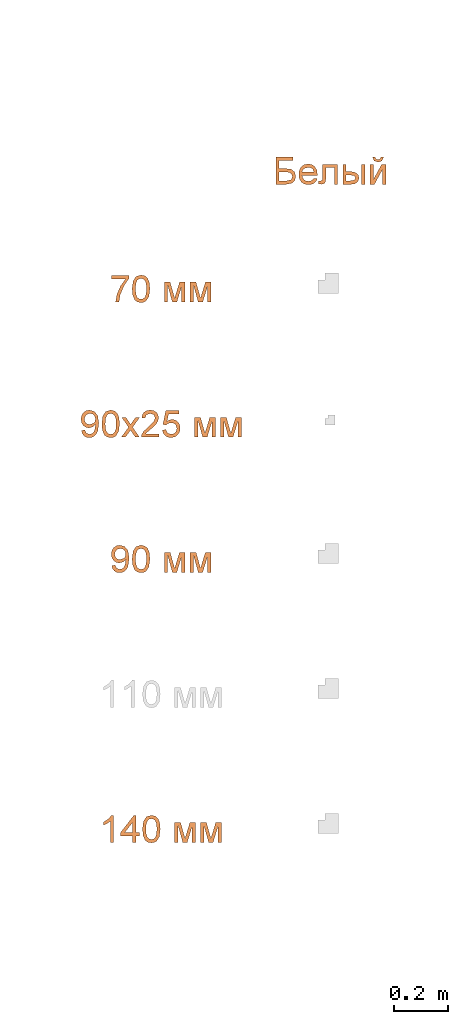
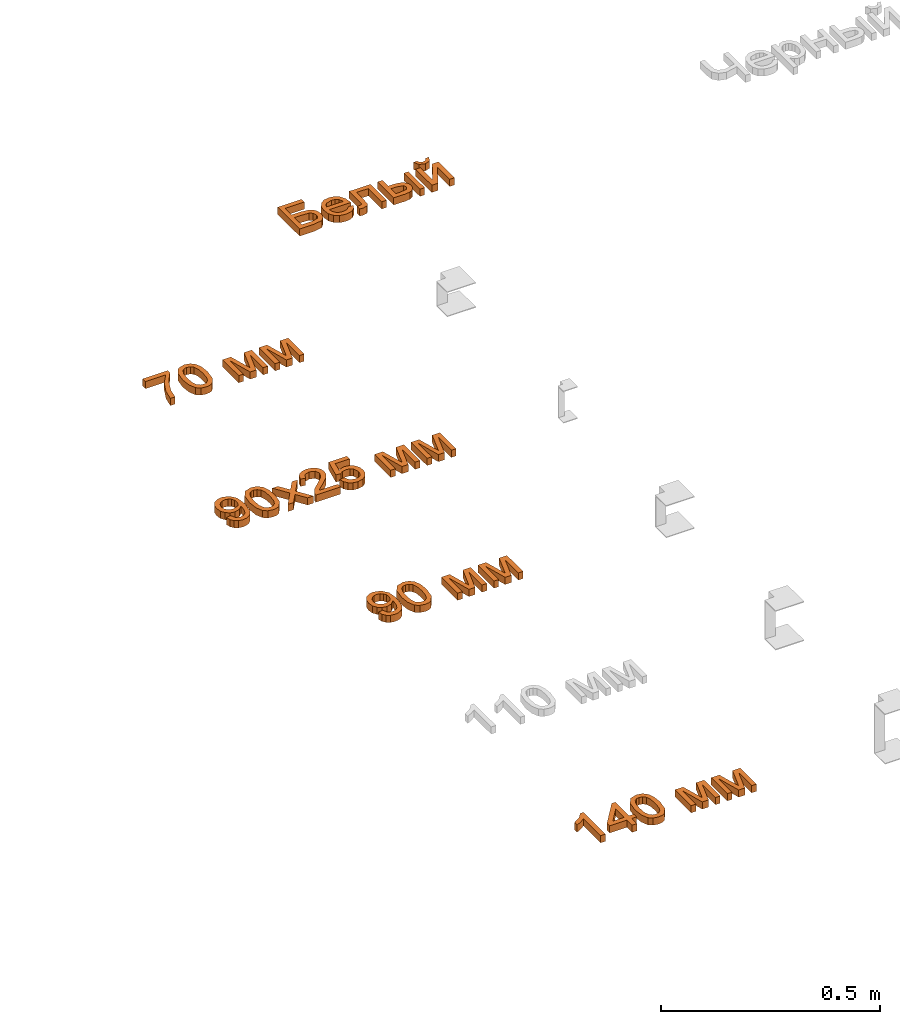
# One storey, part 39 of 87: 5 proxies.
"""IFC2X3 building model written with IfcOpenShell, lengths in millimetres."""

from ifc_helpers import new_model, entity, si_unit, converted_unit, derived_unit, direction, frame, frame_2d, origin, place, context, subcontext, project, spatial, polyline, rectangle, outline, extrude, element, save


model = new_model("IFC2X3")

# Units and contexts
model_context = context("Model", 3, precision=0.01, world=origin(), true_north=direction((6.12303176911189e-17, 1.0)))
body_context = subcontext(model_context, "Body", "Model", "MODEL_VIEW")
ifc_project = project(units=[si_unit("LENGTHUNIT", "METRE", prefix="MILLI"), si_unit("AREAUNIT", "SQUARE_METRE"), si_unit("VOLUMEUNIT", "CUBIC_METRE"), converted_unit("PLANEANGLEUNIT", "DEGREE", entity("IfcRatioMeasure", 0.0174532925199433), si_unit("PLANEANGLEUNIT", "RADIAN"), dimensions=[0, 0, 0, 0, 0, 0, 0]), si_unit("MASSUNIT", "GRAM", prefix="KILO"), derived_unit("MASSDENSITYUNIT", [(si_unit("MASSUNIT", "GRAM", prefix="KILO"), 1), (si_unit("LENGTHUNIT", "METRE"), -3)]), si_unit("TIMEUNIT", "SECOND"), si_unit("FREQUENCYUNIT", "HERTZ"), si_unit("THERMODYNAMICTEMPERATUREUNIT", "DEGREE_CELSIUS"), derived_unit("THERMALTRANSMITTANCEUNIT", [(si_unit("MASSUNIT", "GRAM", prefix="KILO"), 1), (si_unit("THERMODYNAMICTEMPERATUREUNIT", "KELVIN"), -1), (si_unit("TIMEUNIT", "SECOND"), -3)]), derived_unit("VOLUMETRICFLOWRATEUNIT", [(si_unit("LENGTHUNIT", "METRE"), 3), (si_unit("TIMEUNIT", "SECOND"), -1)]), si_unit("ELECTRICCURRENTUNIT", "AMPERE"), si_unit("ELECTRICVOLTAGEUNIT", "VOLT"), si_unit("POWERUNIT", "WATT"), si_unit("FORCEUNIT", "NEWTON", prefix="KILO"), si_unit("ILLUMINANCEUNIT", "LUX"), si_unit("LUMINOUSFLUXUNIT", "LUMEN"), si_unit("LUMINOUSINTENSITYUNIT", "CANDELA"), derived_unit("USERDEFINED", [(si_unit("MASSUNIT", "GRAM", prefix="KILO"), -1), (si_unit("LENGTHUNIT", "METRE"), -2), (si_unit("TIMEUNIT", "SECOND"), 3), (si_unit("LUMINOUSFLUXUNIT", "LUMEN"), 1)]), derived_unit("LINEARVELOCITYUNIT", [(si_unit("LENGTHUNIT", "METRE"), 1), (si_unit("TIMEUNIT", "SECOND"), -1)]), si_unit("PRESSUREUNIT", "PASCAL"), derived_unit("USERDEFINED", [(si_unit("LENGTHUNIT", "METRE"), -2), (si_unit("MASSUNIT", "GRAM", prefix="KILO"), 1), (si_unit("TIMEUNIT", "SECOND"), -2)])], contexts=[model_context])

# Site, building, storey
site_placement = place(None, origin())
site = spatial("IfcSite", under=ifc_project, at=site_placement, Name="Default", CompositionType="ELEMENT")
building_placement = place(site_placement, origin())
building = spatial("IfcBuilding", under=site, at=building_placement, Name="Наименование здания", CompositionType="ELEMENT")
storey_placement = place(building_placement, origin())
storey = spatial("IfcBuildingStorey", under=building, at=storey_placement, Name="Этаж 01", CompositionType="ELEMENT", Elevation=0.0)

# Proxies
proxy_1_placement = place(storey_placement, origin())
element("IfcBuildingElementProxy", 1, at=proxy_1_placement, inside=storey, Name="Текст модели:100 мм Arial", ObjectType="Текст модели:100 мм Arial", context=body_context, shape_type="SweptSolid", body=[
    extrude(outline(polyline([(-33.1249866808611, -28.4339338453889), (-33.1249866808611, -40.9909726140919), (32.7994668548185, -40.9909726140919), (32.7994668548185, -30.8374295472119), (14.0987987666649, -3.82262836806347), (-0.211810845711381, 30.5988636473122), (-4.87164945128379, 57.8957076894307), (-17.4286882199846, 57.8957076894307), (-12.4377558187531, 29.5687940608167), (1.25971713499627, -2.44920225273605), (20.2424280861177, -28.4339338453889), (-33.1249866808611, -28.4339338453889)])), frame((12235.1846956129, -13165.1417152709, 0.0), z_axis=(0.0, 0.0, -1.0), x_axis=(1.0, 0.0, 0.0)), (0.0, 0.0, -1.0), 20.0),
    extrude(outline(polyline([(-7.02884310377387, -33.3490673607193), (17.5323805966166, -33.3490673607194), (35.1984171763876, -27.613761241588), (43.3439841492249, -18.4876517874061), (47.0516941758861, -5.7515066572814), (46.7162020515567, 4.48638208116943), (43.4465778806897, 13.0955287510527), (27.9444305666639, 25.6659118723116), (-0.314338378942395, 32.2325535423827), (-24.0296505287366, 32.3678288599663), (-39.414302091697, 28.0260881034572), (-49.7293680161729, 18.9002174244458), (-54.4436715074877, 4.63998875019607), (-50.8676582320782, -14.1301059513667), (-35.4058547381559, -26.733339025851), (-7.02884310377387, -33.3490673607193)]), holes=[polyline([(-5.7742877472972, -20.854832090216), (-25.0157644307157, -17.3562860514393), (-36.7257089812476, -11.5717922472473), (-41.0962588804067, -4.77599682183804), (-41.9669219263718, 3.21464792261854), (-39.2244253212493, 11.27912929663), (-32.8654063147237, 17.2229259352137), (-20.9698370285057, 20.294750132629), (-1.61768958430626, 19.7433141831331), (17.8514140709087, 16.2707701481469), (28.7803640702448, 10.7141596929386), (33.5546988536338, 3.61815959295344), (34.5599568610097, -4.47255337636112), (31.942123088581, -12.192319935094), (25.8471825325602, -18.1754808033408), (14.025067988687, -21.4027476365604), (-5.7742877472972, -20.854832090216)])]), frame((12312.8631089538, -13177.21424602, 0.0), z_axis=(0.0, 0.0, 1.0), x_axis=(0.1018515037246, -0.994799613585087, 0.0)), (0.0, 0.0, 1.0), 20.0),
    extrude(outline(polyline([(-40.5839870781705, -38.4502715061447), (33.1886156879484, -38.4502715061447), (33.1886156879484, -25.893232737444), (-29.0570178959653, -25.893232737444), (33.1886156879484, -8.6273044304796), (33.1886156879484, 7.85380895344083), (-26.2120637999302, 25.9045521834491), (33.1886156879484, 25.9045521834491), (33.1886156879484, 38.4615909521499), (-40.5839870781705, 38.4615909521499), (-40.5839870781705, 17.7620973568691), (18.4733358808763, -0.190544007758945), (-40.5839870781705, -16.8433356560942), (-40.5839870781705, -38.4502715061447)])), frame((12436.7137111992, -13189.8488072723, 0.0), z_axis=(0.0, 0.0, 1.0), x_axis=(0.0, -1.0, 0.0)), (0.0, 0.0, 1.0), 20.0),
    extrude(outline(polyline([(-40.5839870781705, -38.4502715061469), (33.1886156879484, -38.4502715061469), (33.1886156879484, -25.8932327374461), (-29.0570178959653, -25.8932327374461), (33.1886156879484, -8.62730443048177), (33.1886156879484, 7.85380895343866), (-26.2120637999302, 25.9045521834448), (33.1886156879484, 25.9045521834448), (33.1886156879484, 38.4615909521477), (-40.5839870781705, 38.4615909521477), (-40.5839870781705, 17.762097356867), (18.4733358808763, -0.19054400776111), (-40.5839870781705, -16.8433356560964), (-40.5839870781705, -38.4502715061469)])), frame((12532.4611318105, -13189.8488072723, 0.0), z_axis=(0.0, 0.0, 1.0), x_axis=(0.0, -1.0, 0.0)), (0.0, 0.0, 1.0), 20.0),
])
proxy_2_placement = place(storey_placement, origin())
element("IfcBuildingElementProxy", 2, at=proxy_2_placement, inside=storey, Name="Текст модели:100 мм Arial", ObjectType="Текст модели:100 мм Arial", context=body_context, shape_type="SweptSolid", body=[
    extrude(outline(polyline([(5.58296908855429, -31.7859506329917), (17.2387167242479, -31.7859506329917), (26.9216142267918, -28.1739915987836), (34.2072820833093, -21.2554963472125), (38.6713407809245, -11.335887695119), (39.9245387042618, -0.903731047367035), (37.9450282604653, 8.92661895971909), (32.7793953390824, 17.8190246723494), (24.4742258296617, 25.437348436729), (-3.90517077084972, 37.365916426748), (-32.1440557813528, 40.5619140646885), (-49.7769073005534, 32.5319597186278), (-59.4683269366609, 16.6032994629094), (-60.449988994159, 4.02951589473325), (-56.4016296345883, -7.53444362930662), (-47.8362588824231, -16.8026666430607), (-35.2668867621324, -22.4892406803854), (-21.9841856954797, -23.8222776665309), (-10.3310965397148, -20.2832716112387), (-1.40106329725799, -12.8047998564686), (3.71247002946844, -2.31943974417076), (3.73902096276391, 11.9281903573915), (-2.85997612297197, 24.0883984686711), (-0.471643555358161, 23.5260231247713), (13.1334133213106, 18.0099957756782), (22.6158894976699, 11.2224941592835), (27.0079821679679, 2.91452909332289), (26.6924060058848, -7.52395807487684), (20.3410079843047, -16.8945474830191), (7.30988926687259, -19.2495752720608), (5.58296908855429, -31.7859506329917)]), holes=[polyline([(-21.7672208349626, 29.1433710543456), (-13.9803799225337, 25.5922442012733), (-8.91107638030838, 19.8291378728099), (-7.47464573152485, 4.45415101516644), (-10.9717321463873, -3.43916536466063), (-16.5473789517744, -8.7331221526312), (-23.57581367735, -11.1761402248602), (-31.4312638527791, -10.5166404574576), (-39.4119601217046, -6.85973803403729), (-44.9206699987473, -0.817312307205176), (-47.5297596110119, 6.8362474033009), (-46.8115950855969, 15.3265517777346), (-43.378182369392, 22.779928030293), (-37.7148363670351, 27.7965691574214), (-30.3387761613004, 30.0324064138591), (-21.7672208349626, 29.1433710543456)])]), frame((12120.666226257, -13684.3199889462, 0.0), z_axis=(0.0, 0.0, 1.0), x_axis=(0.258284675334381, -0.966068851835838, 0.0)), (0.0, 0.0, 1.0), 20.0),
    extrude(outline(polyline([(-7.02884310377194, -33.3490673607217), (17.5323805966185, -33.3490673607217), (35.1984171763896, -27.6137612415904), (43.3439841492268, -18.4876517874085), (47.0516941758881, -5.75150665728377), (46.7162020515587, 4.48638208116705), (43.4465778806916, 13.0955287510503), (27.9444305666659, 25.6659118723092), (-0.314338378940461, 32.2325535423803), (-24.0296505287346, 32.367828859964), (-39.414302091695, 28.0260881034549), (-49.7293680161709, 18.9002174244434), (-54.4436715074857, 4.6399887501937), (-50.8676582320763, -14.1301059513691), (-35.405854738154, -26.7333390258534), (-7.02884310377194, -33.3490673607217)]), holes=[polyline([(-5.77428774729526, -20.8548320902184), (-25.0157644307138, -17.3562860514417), (-36.7257089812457, -11.5717922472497), (-41.0962588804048, -4.77599682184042), (-41.9669219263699, 3.21464792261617), (-39.2244253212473, 11.2791292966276), (-32.8654063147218, 17.2229259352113), (-20.9698370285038, 20.2947501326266), (-1.61768958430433, 19.7433141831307), (17.8514140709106, 16.2707701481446), (28.7803640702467, 10.7141596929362), (33.5546988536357, 3.61815959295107), (34.5599568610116, -4.4725533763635), (31.942123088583, -12.1923199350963), (25.8471825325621, -18.1754808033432), (14.0250679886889, -21.4027476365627), (-5.77428774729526, -20.8548320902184)])]), frame((12200.6345749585, -13677.21424602, 0.0), z_axis=(0.0, 0.0, 1.0), x_axis=(0.1018515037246, -0.994799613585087, 0.0)), (0.0, 0.0, 1.0), 20.0),
    extrude(outline(polyline([(-34.530221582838, -38.426500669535), (-19.422534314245, -38.426500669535), (-0.341721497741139, -12.0616243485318), (2.47870713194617, -16.1328517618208), (17.8561745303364, -38.426500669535), (32.9638617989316, -38.426500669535), (7.40832586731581, -1.34399555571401), (33.944880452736, 35.3461020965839), (18.8371931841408, 35.3461020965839), (4.95577923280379, 16.167187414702), (0.0261604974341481, 9.34910777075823), (-5.66374769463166, 17.6877663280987), (-17.8529044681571, 35.3461020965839), (-32.9605917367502, 35.3461020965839), (-7.6993614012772, -1.34399555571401), (-34.530221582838, -38.426500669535)])), frame((12273.476231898, -13684.6109222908, 0.0)), (0.0, 0.0, 1.0), 20.0),
    extrude(outline(polyline([(-32.3858783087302, -45.1669477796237), (-32.3858783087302, -57.7239865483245), (33.5385752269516, -57.7239865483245), (32.1896745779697, -49.0664969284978), (24.5622545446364, -35.7369059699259), (8.84143061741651, -21.1810416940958), (-12.8390816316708, -0.260818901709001), (-18.2592096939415, 13.9639515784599), (-13.1456499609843, 25.4786580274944), (0.20846646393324, 30.1752848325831), (14.1266686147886, 25.5890226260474), (19.4119066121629, 12.9093565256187), (31.9689453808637, 14.4789863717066), (28.9247218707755, 26.6252235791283), (22.3426998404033, 35.4973110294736), (12.5662358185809, 40.9235704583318), (-0.0613136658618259, 42.7323236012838), (-12.7808336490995, 40.721235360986), (-22.5389035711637, 34.6879706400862), (-28.7469122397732, 25.6748617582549), (-30.8162484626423, 14.7242410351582), (-28.5844310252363, 2.81712712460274), (-21.1654774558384, -9.49465698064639), (-3.17604789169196, -26.6992716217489), (11.2694517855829, -38.7780637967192), (16.9348345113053, -45.1669477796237), (-32.3858783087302, -45.1669477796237)])), frame((12346.2571883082, -13665.313436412, 0.0), z_axis=(0.0, 0.0, -1.0), x_axis=(-1.0, 0.0, 0.0)), (0.0, 0.0, -1.0), 20.0),
    extrude(outline(polyline([(3.81439562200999, -37.2548959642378), (15.7323946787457, -37.2548959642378), (26.1588137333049, -33.0579698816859), (34.2921694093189, -25.0537205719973), (39.3309783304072, -13.6317508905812), (40.2219288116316, 1.43409098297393), (34.3991305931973, 14.6815107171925), (25.5350217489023, 23.1481891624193), (13.9054384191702, 28.277097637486), (0.912111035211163, 29.4702838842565), (-10.7159258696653, 25.7768606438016), (-19.742707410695, 18.0989984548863), (-24.9322687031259, 7.33886785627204), (-25.5937300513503, -2.21124798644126), (-22.6370240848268, -12.2793380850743), (-47.9924930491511, 0.0204883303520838), (-38.0977082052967, 37.2324069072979), (-50.2330599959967, 40.4592412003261), (-62.7370428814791, -6.56524698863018), (-15.5021967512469, -30.4943712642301), (-10.7584434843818, -18.7623737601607), (-14.4216298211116, -10.4922324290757), (-13.6981616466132, 0.722667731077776), (-9.9873815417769, 9.35727561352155), (-4.32553373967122, 14.6878856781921), (11.4370636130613, 15.9400687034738), (19.7481682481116, 12.2772427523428), (25.435572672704, 6.4063224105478), (28.0665145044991, -1.27212018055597), (27.2082313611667, -10.3575128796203), (19.653063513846, -21.9256319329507), (5.52431094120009, -24.7161898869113), (3.81439562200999, -37.2548959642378)])), frame((12426.2237167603, -13683.0938689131, 0.0), z_axis=(0.0, 0.0, 1.0), x_axis=(0.256974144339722, -0.966418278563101, 0.0)), (0.0, 0.0, 1.0), 20.0),
    extrude(outline(polyline([(-40.5839870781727, -38.4502715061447), (33.1886156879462, -38.4502715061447), (33.1886156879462, -25.8932327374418), (-29.0570178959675, -25.8932327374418), (33.1886156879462, -8.6273044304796), (33.1886156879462, 7.85380895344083), (-26.2120637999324, 25.9045521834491), (33.1886156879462, 25.9045521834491), (33.1886156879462, 38.4615909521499), (-40.5839870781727, 38.4615909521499), (-40.5839870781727, 17.7620973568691), (18.4733358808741, -0.190544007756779), (-40.5839870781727, -16.8433356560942), (-40.5839870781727, -38.4502715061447)])), frame((12548.9422451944, -13689.8488072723, 0.0), z_axis=(0.0, 0.0, 1.0), x_axis=(0.0, -1.0, 0.0)), (0.0, 0.0, 1.0), 20.0),
    extrude(outline(polyline([(-40.5839870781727, -38.4502715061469), (33.1886156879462, -38.4502715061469), (33.1886156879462, -25.8932327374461), (-29.0570178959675, -25.8932327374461), (33.1886156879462, -8.62730443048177), (33.1886156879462, 7.85380895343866), (-26.2120637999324, 25.904552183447), (33.1886156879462, 25.904552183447), (33.1886156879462, 38.4615909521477), (-40.5839870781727, 38.4615909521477), (-40.5839870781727, 17.762097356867), (18.4733358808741, -0.19054400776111), (-40.5839870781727, -16.8433356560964), (-40.5839870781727, -38.4502715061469)])), frame((12644.6896658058, -13689.8488072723, 0.0), z_axis=(0.0, 0.0, 1.0), x_axis=(0.0, -1.0, 0.0)), (0.0, 0.0, 1.0), 20.0),
])
proxy_3_placement = place(storey_placement, origin())
element("IfcBuildingElementProxy", 3, at=proxy_3_placement, inside=storey, Name="Текст модели:100 мм Arial", ObjectType="Текст модели:100 мм Arial", context=body_context, shape_type="SweptSolid", body=[
    extrude(outline(polyline([(5.58296908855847, -31.7859506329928), (17.2387167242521, -31.7859506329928), (26.921614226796, -28.1739915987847), (34.2072820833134, -21.2554963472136), (38.6713407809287, -11.3358876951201), (39.924538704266, -0.903731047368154), (37.9450282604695, 8.92661895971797), (32.7793953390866, 17.8190246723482), (24.4742258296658, 25.4373484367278), (-3.90517077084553, 37.3659164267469), (-32.1440557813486, 40.5619140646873), (-49.7769073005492, 32.5319597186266), (-59.4683269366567, 16.6032994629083), (-60.4499889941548, 4.02951589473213), (-56.4016296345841, -7.53444362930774), (-47.8362588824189, -16.8026666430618), (-35.2668867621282, -22.4892406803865), (-21.9841856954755, -23.822277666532), (-10.3310965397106, -20.2832716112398), (-1.4010632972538, -12.8047998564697), (3.71247002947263, -2.31943974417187), (3.73902096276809, 11.9281903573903), (-2.85997612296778, 24.08839846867), (-0.471643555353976, 23.5260231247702), (13.1334133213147, 18.009995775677), (22.6158894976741, 11.2224941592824), (27.007982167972, 2.91452909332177), (26.692406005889, -7.52395807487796), (20.3410079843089, -16.8945474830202), (7.30988926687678, -19.2495752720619), (5.58296908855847, -31.7859506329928)]), holes=[polyline([(-21.7672208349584, 29.1433710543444), (-13.9803799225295, 25.5922442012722), (-8.91107638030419, 19.8291378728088), (-7.47464573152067, 4.45415101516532), (-10.9717321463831, -3.43916536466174), (-16.5473789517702, -8.73312215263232), (-23.5758136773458, -11.1761402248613), (-31.4312638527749, -10.5166404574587), (-39.4119601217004, -6.8597380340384), (-44.9206699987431, -0.817312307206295), (-47.5297596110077, 6.83624740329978), (-46.8115950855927, 15.3265517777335), (-43.3781823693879, 22.7799280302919), (-37.7148363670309, 27.7965691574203), (-30.3387761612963, 30.032406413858), (-21.7672208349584, 29.1433710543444)])]), frame((12232.8947602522, -14184.3199889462, 0.0), z_axis=(0.0, 0.0, 1.0), x_axis=(0.258284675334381, -0.966068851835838, 0.0)), (0.0, 0.0, 1.0), 20.0),
    extrude(outline(polyline([(-7.02884310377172, -33.3490673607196), (17.5323805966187, -33.3490673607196), (35.1984171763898, -27.6137612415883), (43.3439841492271, -18.4876517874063), (47.0516941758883, -5.75150665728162), (46.7162020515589, 4.48638208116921), (43.4465778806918, 13.0955287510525), (27.9444305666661, 25.6659118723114), (-0.314338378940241, 32.2325535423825), (-24.0296505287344, 32.3678288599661), (-39.4143020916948, 28.026088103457), (-49.7293680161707, 18.9002174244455), (-54.4436715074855, 4.63998875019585), (-50.8676582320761, -14.1301059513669), (-35.4058547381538, -26.7333390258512), (-7.02884310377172, -33.3490673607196)]), holes=[polyline([(-5.77428774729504, -20.8548320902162), (-25.0157644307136, -17.3562860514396), (-36.7257089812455, -11.5717922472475), (-41.0962588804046, -4.77599682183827), (-41.9669219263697, 3.21464792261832), (-39.2244253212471, 11.2791292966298), (-32.8654063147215, 17.2229259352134), (-20.9698370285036, 20.2947501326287), (-1.6176895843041, 19.7433141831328), (17.8514140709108, 16.2707701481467), (28.780364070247, 10.7141596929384), (33.5546988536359, 3.61815959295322), (34.5599568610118, -4.47255337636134), (31.9421230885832, -12.1923199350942), (25.8471825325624, -18.175480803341), (14.0250679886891, -21.4027476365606), (-5.77428774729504, -20.8548320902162)])]), frame((12312.8631089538, -14177.21424602, 0.0), z_axis=(0.0, 0.0, 1.0), x_axis=(0.1018515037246, -0.994799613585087, 0.0)), (0.0, 0.0, 1.0), 20.0),
    extrude(outline(polyline([(-40.5839870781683, -38.4502715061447), (33.1886156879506, -38.4502715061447), (33.1886156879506, -25.893232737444), (-29.0570178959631, -25.893232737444), (33.1886156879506, -8.6273044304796), (33.1886156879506, 7.85380895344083), (-26.2120637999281, 25.9045521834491), (33.1886156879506, 25.9045521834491), (33.1886156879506, 38.4615909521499), (-40.5839870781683, 38.4615909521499), (-40.5839870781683, 17.7620973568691), (18.4733358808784, -0.190544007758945), (-40.5839870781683, -16.8433356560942), (-40.5839870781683, -38.4502715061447)])), frame((12436.7137111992, -14189.8488072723, 0.0), z_axis=(0.0, 0.0, 1.0), x_axis=(0.0, -1.0, 0.0)), (0.0, 0.0, 1.0), 20.0),
    extrude(outline(polyline([(-40.5839870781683, -38.4502715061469), (33.1886156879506, -38.4502715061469), (33.1886156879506, -25.8932327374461), (-29.0570178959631, -25.8932327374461), (33.1886156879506, -8.62730443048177), (33.1886156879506, 7.85380895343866), (-26.2120637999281, 25.9045521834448), (33.1886156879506, 25.9045521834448), (33.1886156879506, 38.4615909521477), (-40.5839870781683, 38.4615909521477), (-40.5839870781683, 17.762097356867), (18.4733358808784, -0.19054400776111), (-40.5839870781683, -16.8433356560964), (-40.5839870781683, -38.4502715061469)])), frame((12532.4611318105, -14189.8488072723, 0.0), z_axis=(0.0, 0.0, 1.0), x_axis=(0.0, -1.0, 0.0)), (0.0, 0.0, 1.0), 20.0),
])
proxy_4_placement = place(storey_placement, origin())
element("IfcBuildingElementProxy", 4, at=proxy_4_placement, inside=storey, Name="Текст модели:100 мм Arial", ObjectType="Текст модели:100 мм Arial", context=body_context, shape_type="SweptSolid", body=[
    extrude(outline(polyline([(-63.8793021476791, -16.9184842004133), (36.5770080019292, -16.9184842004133), (36.5770080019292, -8.82508030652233), (23.2106288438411, 2.34626961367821), (11.4629304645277, 20.7526321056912), (-0.407395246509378, 20.7526321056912), (5.93243780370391, 7.53340574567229), (14.405986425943, -4.36144543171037), (-63.8793021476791, -4.36144543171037), (-63.8793021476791, -16.9184842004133)])), frame((12193.7741888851, -15159.1581208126, 0.0), z_axis=(0.0, 0.0, 1.0), x_axis=(0.0, 1.0, 0.0)), (0.0, 0.0, 1.0), 20.0),
    extrude(outline(polyline([(-1.14154897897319, -36.3868737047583), (11.4154897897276, -36.3868737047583), (11.4154897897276, -12.8424260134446), (23.9725285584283, -12.8424260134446), (23.9725285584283, -0.285387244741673), (11.4154897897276, -0.285387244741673), (11.4154897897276, 62.4998065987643), (1.99771071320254, 62.4998065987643), (-46.6608145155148, -0.285387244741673), (-46.6608145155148, -12.8424260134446), (-1.14154897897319, -12.8424260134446), (-1.14154897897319, -36.3868737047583)]), holes=[polyline([(-1.14154897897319, -0.285387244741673), (-31.20977071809, -0.285387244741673), (-1.14154897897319, 38.5139005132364), (-1.14154897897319, -0.285387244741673)])]), frame((12282.4675651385, -15186.6505492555, 0.0)), (0.0, 0.0, 1.0), 20.0),
    extrude(outline(polyline([(-7.02884310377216, -33.3490673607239), (17.5323805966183, -33.3490673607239), (35.1984171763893, -27.6137612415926), (43.3439841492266, -18.4876517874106), (47.0516941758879, -5.75150665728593), (46.7162020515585, 4.4863820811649), (43.4465778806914, 13.0955287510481), (27.9444305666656, 25.6659118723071), (-0.314338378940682, 32.2325535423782), (-24.0296505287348, 32.3678288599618), (-39.4143020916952, 28.0260881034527), (-49.7293680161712, 18.9002174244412), (-54.4436715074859, 4.63998875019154), (-50.8676582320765, -14.1301059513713), (-35.4058547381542, -26.7333390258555), (-7.02884310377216, -33.3490673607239)]), holes=[polyline([(-5.77428774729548, -20.8548320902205), (-25.015764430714, -17.3562860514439), (-36.7257089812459, -11.5717922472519), (-41.096258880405, -4.77599682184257), (-41.9669219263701, 3.21464792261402), (-39.2244253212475, 11.2791292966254), (-32.865406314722, 17.2229259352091), (-20.969837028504, 20.2947501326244), (-1.61768958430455, 19.7433141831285), (17.8514140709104, 16.2707701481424), (28.7803640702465, 10.7141596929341), (33.5546988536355, 3.61815959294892), (34.5599568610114, -4.47255337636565), (31.9421230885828, -12.1923199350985), (25.8471825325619, -18.1754808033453), (14.0250679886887, -21.4027476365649), (-5.77428774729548, -20.8548320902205)])]), frame((12351.319040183, -15177.21424602, 0.0), z_axis=(0.0, 0.0, 1.0), x_axis=(0.1018515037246, -0.994799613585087, 0.0)), (0.0, 0.0, 1.0), 20.0),
    extrude(outline(polyline([(-40.5839870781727, -38.4502715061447), (33.1886156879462, -38.4502715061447), (33.1886156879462, -25.893232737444), (-29.0570178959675, -25.893232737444), (33.1886156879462, -8.6273044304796), (33.1886156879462, 7.85380895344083), (-26.2120637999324, 25.9045521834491), (33.1886156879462, 25.9045521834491), (33.1886156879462, 38.4615909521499), (-40.5839870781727, 38.4615909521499), (-40.5839870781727, 17.7620973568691), (18.4733358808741, -0.190544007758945), (-40.5839870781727, -16.8433356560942), (-40.5839870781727, -38.4502715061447)])), frame((12475.1696424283, -15189.8488072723, 0.0), z_axis=(0.0, 0.0, 1.0), x_axis=(0.0, -1.0, 0.0)), (0.0, 0.0, 1.0), 20.0),
    extrude(outline(polyline([(-40.5839870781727, -38.4502715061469), (33.1886156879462, -38.4502715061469), (33.1886156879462, -25.8932327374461), (-29.0570178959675, -25.8932327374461), (33.1886156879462, -8.62730443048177), (33.1886156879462, 7.85380895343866), (-26.2120637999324, 25.904552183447), (33.1886156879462, 25.904552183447), (33.1886156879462, 38.4615909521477), (-40.5839870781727, 38.4615909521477), (-40.5839870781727, 17.762097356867), (18.4733358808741, -0.19054400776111), (-40.5839870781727, -16.8433356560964), (-40.5839870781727, -38.4502715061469)])), frame((12570.9170630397, -15189.8488072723, 0.0), z_axis=(0.0, 0.0, 1.0), x_axis=(0.0, -1.0, 0.0)), (0.0, 0.0, 1.0), 20.0),
])
proxy_5_placement = place(storey_placement, origin())
element("IfcBuildingElementProxy", 5, at=proxy_5_placement, inside=storey, Name="Текст модели:100 мм Arial", ObjectType="Текст модели:100 мм Arial", context=body_context, shape_type="SweptSolid", body=[
    extrude(outline(polyline([(-50.9950475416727, -42.7620371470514), (49.4612626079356, -42.7620371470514), (49.4612626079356, -4.42873324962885), (45.2428823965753, 17.8649156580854), (34.3658380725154, 27.7118903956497), (20.0552284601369, 31.0105656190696), (3.57411507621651, 26.3752524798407), (-6.06439319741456, 14.0389429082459), (-8.61504169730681, -6.68507615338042), (-8.61504169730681, -30.2049983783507), (-38.4380087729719, -30.2049983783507), (-38.4380087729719, 20.0231566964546), (-50.9950475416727, 20.0231566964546), (-50.9950475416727, -42.7620371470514)]), holes=[polyline([(36.9042238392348, -30.2049983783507), (3.94199707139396, -30.2049983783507), (3.94199707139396, -12.2523570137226), (5.2418467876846, 6.66904027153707), (10.4902965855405, 15.3387926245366), (20.3250085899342, 18.4535268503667), (27.5784152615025, 17.0923634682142), (32.7594200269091, 13.0088733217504), (36.9042238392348, -3.30056179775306), (36.9042238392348, -30.2049983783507)])]), frame((12853.8285451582, -12737.1661642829, 0.0), z_axis=(0.0, 0.0, 1.0), x_axis=(0.0, -1.0, 0.0)), (0.0, 0.0, 1.0), 20.0),
    extrude(outline(polyline([(-8.10128238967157, -20.3751729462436), (-15.5352214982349, -30.3140016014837), (-5.7840037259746, -33.5775071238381), (4.12185089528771, -33.3132173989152), (13.8776168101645, -29.448077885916), (23.178568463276, -21.9090340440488), (31.6380426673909, -9.59237957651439), (34.1620486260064, 3.7413532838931), (30.604050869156, 17.2442201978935), (20.8175139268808, 30.0682768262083), (7.27698270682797, 39.7846728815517), (-6.66179525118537, 43.1117813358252), (-19.9642596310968, 40.422123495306), (-31.595850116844, 32.0882206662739), (-39.2435519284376, 20.5090048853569), (-41.3106827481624, 7.34319797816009), (-37.4373707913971, -6.34962495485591), (-27.2637442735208, -19.5098888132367), (-24.7804584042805, -21.8106804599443), (14.4643272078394, 18.7422646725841), (19.7071986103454, 10.643799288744), (21.1614672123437, 2.21005051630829), (19.1472085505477, -5.98136753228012), (13.9844981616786, -13.3528407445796), (3.5368460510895, -20.3751729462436), (-8.10128238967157, -20.3751729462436)]), holes=[polyline([(5.44081225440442, 27.474698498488), (-25.1227061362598, -4.10760383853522), (-29.8038819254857, 7.41909510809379), (-27.8851342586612, 15.7498710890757), (-22.5382240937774, 23.3910349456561), (-8.40970331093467, 31.2368652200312), (-1.08072680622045, 30.9147288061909), (5.44081225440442, 27.474698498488)])]), frame((12931.9105930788, -12756.3048760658, 0.0), z_axis=(0.0, 0.0, -1.0), x_axis=(-0.695421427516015, -0.71860214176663, 0.0)), (0.0, 0.0, -1.0), 20.0),
    extrude(outline(polyline([(-49.3689973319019, 12.5447760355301), (-49.3689973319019, -43.9618984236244), (24.3300290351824, -43.9618984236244), (24.3300290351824, -31.4048596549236), (-36.8119585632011, -31.4048596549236), (-36.8119585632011, -0.0122627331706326), (-1.61791435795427, -0.0122627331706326), (14.6179443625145, 0.833865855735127), (21.4728122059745, 5.48144172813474), (24.403605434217, 16.4688506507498), (23.7659433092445, 26.6714446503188), (11.8465666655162, 26.6714446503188), (11.8465666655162, 21.0551128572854), (11.0740144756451, 15.3774673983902), (8.62146784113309, 13.108861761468), (-2.32915288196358, 12.5447760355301), (-49.3689973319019, 12.5447760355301)])), frame((12996.2705671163, -12762.2238214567, 0.0), z_axis=(0.0, 0.0, -1.0), x_axis=(0.0, -1.0, 0.0)), (0.0, 0.0, -1.0), 20.0),
    extrude(outline(polyline([(-42.39887158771, -34.5139341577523), (31.3737311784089, -34.5139341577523), (31.3737311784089, -3.73447389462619), (29.653882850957, 9.3161398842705), (24.4943378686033, 18.2526066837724), (16.9129030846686, 23.4121516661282), (7.92738535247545, 25.131999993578), (-1.9410491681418, 23.0810578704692), (-9.42438208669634, 16.9282315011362), (-14.1424686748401, 6.9862205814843), (-15.7151642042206, -6.43227519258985), (-15.7151642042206, -21.9568953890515), (-42.39887158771, -21.9568953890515), (-42.39887158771, -34.5139341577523)]), holes=[polyline([(18.8166924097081, -21.9568953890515), (-3.15812543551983, -21.9568953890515), (-3.15812543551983, -7.41329384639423), (0.226388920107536, 8.8838785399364), (7.95191081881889, 12.5749612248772), (16.1802047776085, 7.59629155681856), (18.8166924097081, -9.05650009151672), (18.8166924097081, -21.9568953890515)])]), frame((13093.5819578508, -12755.2536957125, 0.0), z_axis=(0.0, 0.0, 1.0), x_axis=(0.0, -1.0, 0.0)), (0.0, 0.0, 1.0), 20.0),
    extrude(outline(polyline([(-11.142983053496, -6.65049913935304), (-15.3141401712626, -15.0941956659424), (-0.0922190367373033, -15.8161107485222), (10.26316354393, -5.84547547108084), (12.4162171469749, 9.42172447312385), (2.76087400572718, 21.4951559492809), (-1.41028311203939, 13.0514594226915), (3.36929976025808, 6.75127419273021), (2.31913688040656, -0.662833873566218), (-3.16906596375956, -6.65049913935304), (-11.142983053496, -6.65049913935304)])), frame((13189.4368188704, -12693.2160569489, 0.0), z_axis=(0.0, 0.0, -1.0), x_axis=(-0.442902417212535, -0.896569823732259, 0.0)), (0.0, 0.0, -1.0), 20.0),
    extrude(outline(polyline([(-36.9206370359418, -29.8425874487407), (36.8519657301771, -29.8425874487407), (36.8519657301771, -13.4105249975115), (-19.0660975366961, 17.2463079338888), (36.8519657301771, 17.2463079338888), (36.8519657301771, 29.8033467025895), (-36.9206370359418, 29.8033467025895), (-36.9206370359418, 13.5674879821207), (19.3407827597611, -17.28554868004), (-36.9206370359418, -17.28554868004), (-36.9206370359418, -29.8425874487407)])), frame((13189.3669212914, -12749.7754611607, 0.0), z_axis=(0.0, 0.0, 1.0), x_axis=(0.0, -1.0, 0.0)), (0.0, 0.0, 1.0), 20.0),
    extrude(rectangle(XDim=73.7726027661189, YDim=12.5570387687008, at=frame_2d((-1.08357767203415e-12, -1.08268949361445e-12), x_axis=(1.0, 0.0))), frame((13134.4102563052, -12749.7411255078, 0.0), z_axis=(0.0, 0.0, 1.0), x_axis=(0.0, -1.0, 0.0)), (0.0, 0.0, 1.0), 20.0),
])

save(model, "model.ifc")
